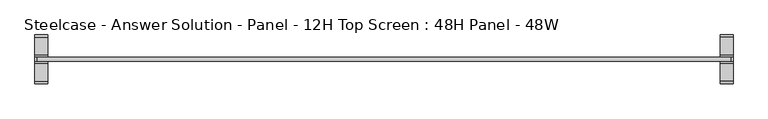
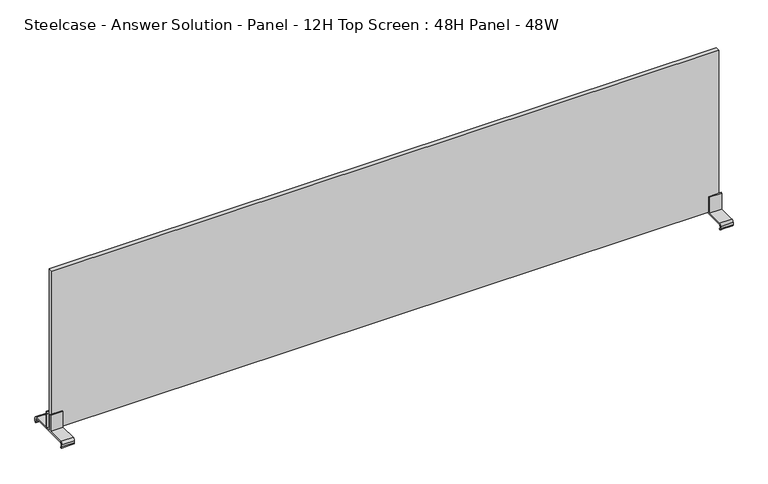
"""IFC4 building model written with IfcOpenShell, lengths in millimetres: furniture geometry, Steelcase - Answer Solution - Panel - 12H Top Screen : 48H Panel - 48W."""

from ifc_helpers import new_model, si_unit, point, frame, frame_2d, origin, place, context, project, spatial, polyline, circle_curve, trimmed, segment, composite_curve, outline, extrude, source, transform, mapped, element, save


def steelcase_answer_solution_panel_12h_top_screen_48h_panel_48w_fa9594a9(model_context):
    return source(origin(), model_context, "Body", "SweptSolid", [
        extrude(outline(polyline([(605.536, -3.683001), (-605.536, -3.683001), (-605.536, 3.683001), (605.536, 3.683001), (605.536, -3.683001)])), frame((0.0, 0.0, 1227.5819981), z_axis=(0.0, 0.0, 1.0), x_axis=(1.0, 0.0, 0.0)), (0.0, 0.0, 1.0), 304.8),
        extrude(outline(composite_curve([segment(trimmed(circle_curve(frame_2d((38.5445, 1223.645)), 1.905), [point((40.4495, 1223.645))], [point((38.5445, 1225.55))], True, "CARTESIAN"), True, "CONTINUOUS"), segment(polyline([(38.5445, 1225.55), (-38.5445, 1225.55)]), True, "CONTINUOUS"), segment(trimmed(circle_curve(frame_2d((-38.5445, 1223.645)), 1.905), [point((-38.5445, 1225.55))], [point((-40.4495, 1223.645))], True, "CARTESIAN"), True, "CONTINUOUS"), segment(polyline([(-40.4495, 1223.645), (-40.4495, 1219.0341187)]), True, "CONTINUOUS"), segment(trimmed(circle_curve(frame_2d((-38.5445, 1219.0341187)), 1.905), [point((-40.4495, 1219.0341187))], [point((-38.6743328, 1217.1335481))], True, "CARTESIAN"), True, "CONTINUOUS"), segment(polyline([(-38.6743328, 1217.1335481), (-39.2392449, 1215.5535566)]), True, "CONTINUOUS"), segment(trimmed(circle_curve(frame_2d((-38.5459934, 1219.4284569)), 3.9364261), [point((-39.2392449, 1215.5535566))], [point((-42.4824195, 1219.4284569))], False, "CARTESIAN"), True, "CONTINUOUS"), segment(polyline([(-42.4824195, 1219.4284569), (-42.4824195, 1223.6452288)]), True, "CONTINUOUS"), segment(trimmed(circle_curve(frame_2d((-38.5459934, 1223.6452288)), 3.9364261), [point((-42.4824195, 1223.6452288))], [point((-38.5459934, 1227.5816549))], False, "CARTESIAN"), True, "CONTINUOUS"), segment(polyline([(-38.5459934, 1227.5816549), (-6.7310004, 1227.5816549), (-6.7310004, 1258.5699952), (-4.699, 1258.5699952), (-4.699, 1227.5819952), (4.699, 1227.5819952), (4.699, 1258.5700048), (6.7310004, 1258.5700048), (6.7310004, 1227.5816549), (38.5459934, 1227.5816549)]), True, "CONTINUOUS"), segment(trimmed(circle_curve(frame_2d((38.5459934, 1223.6452288)), 3.9364261), [point((38.5459934, 1227.5816549))], [point((42.4824195, 1223.6452288))], False, "CARTESIAN"), True, "CONTINUOUS"), segment(polyline([(42.4824195, 1223.6452288), (42.4824195, 1219.4284569)]), True, "CONTINUOUS"), segment(trimmed(circle_curve(frame_2d((38.5459934, 1219.4284569)), 3.9364261), [point((42.4824195, 1219.4284569))], [point((39.6631716, 1215.6538889))], False, "CARTESIAN"), True, "CONTINUOUS"), segment(polyline([(39.6631716, 1215.6538889), (39.1055128, 1217.2135996)]), True, "CONTINUOUS"), segment(trimmed(circle_curve(frame_2d((38.5445, 1219.0341187)), 1.905), [point((39.1055128, 1217.2135996))], [point((40.4495, 1219.0341187))], True, "CARTESIAN"), True, "CONTINUOUS"), segment(polyline([(40.4495, 1219.0341187), (40.4495, 1223.645)]), True, "CONTINUOUS")], self_intersect=False)), frame((586.994, 0.0, 0.0), z_axis=(1.0, 0.0, 0.0), x_axis=(0.0, 1.0, 0.0)), (0.0, 0.0, 1.0), 22.606),
        extrude(outline(composite_curve([segment(trimmed(circle_curve(frame_2d((38.5445, 1223.645)), 1.905), [point((40.4495, 1223.645))], [point((38.5445, 1225.55))], True, "CARTESIAN"), True, "CONTINUOUS"), segment(polyline([(38.5445, 1225.55), (-38.5445, 1225.55)]), True, "CONTINUOUS"), segment(trimmed(circle_curve(frame_2d((-38.5445, 1223.645)), 1.905), [point((-38.5445, 1225.55))], [point((-40.4495, 1223.645))], True, "CARTESIAN"), True, "CONTINUOUS"), segment(polyline([(-40.4495, 1223.645), (-40.4495, 1219.0341187)]), True, "CONTINUOUS"), segment(trimmed(circle_curve(frame_2d((-38.5445, 1219.0341187)), 1.905), [point((-40.4495, 1219.0341187))], [point((-38.6743328, 1217.1335481))], True, "CARTESIAN"), True, "CONTINUOUS"), segment(polyline([(-38.6743328, 1217.1335481), (-39.2392449, 1215.5535566)]), True, "CONTINUOUS"), segment(trimmed(circle_curve(frame_2d((-38.5459934, 1219.4284569)), 3.9364261), [point((-39.2392449, 1215.5535566))], [point((-42.4824195, 1219.4284569))], False, "CARTESIAN"), True, "CONTINUOUS"), segment(polyline([(-42.4824195, 1219.4284569), (-42.4824195, 1223.6452288)]), True, "CONTINUOUS"), segment(trimmed(circle_curve(frame_2d((-38.5459934, 1223.6452288)), 3.9364261), [point((-42.4824195, 1223.6452288))], [point((-38.5459934, 1227.5816549))], False, "CARTESIAN"), True, "CONTINUOUS"), segment(polyline([(-38.5459934, 1227.5816549), (-6.7310004, 1227.5816549), (-6.7310004, 1258.5699952), (-4.699, 1258.5699952), (-4.699, 1227.5819952), (4.699, 1227.5819952), (4.699, 1258.5700048), (6.7310004, 1258.5700048), (6.7310004, 1227.5816549), (38.5459934, 1227.5816549)]), True, "CONTINUOUS"), segment(trimmed(circle_curve(frame_2d((38.5459934, 1223.6452288)), 3.9364261), [point((38.5459934, 1227.5816549))], [point((42.4824195, 1223.6452288))], False, "CARTESIAN"), True, "CONTINUOUS"), segment(polyline([(42.4824195, 1223.6452288), (42.4824195, 1219.4284569)]), True, "CONTINUOUS"), segment(trimmed(circle_curve(frame_2d((38.5459934, 1219.4284569)), 3.9364261), [point((42.4824195, 1219.4284569))], [point((39.6631716, 1215.6538889))], False, "CARTESIAN"), True, "CONTINUOUS"), segment(polyline([(39.6631716, 1215.6538889), (39.1055128, 1217.2135996)]), True, "CONTINUOUS"), segment(trimmed(circle_curve(frame_2d((38.5445, 1219.0341187)), 1.905), [point((39.1055128, 1217.2135996))], [point((40.4495, 1219.0341187))], True, "CARTESIAN"), True, "CONTINUOUS"), segment(polyline([(40.4495, 1219.0341187), (40.4495, 1223.645)]), True, "CONTINUOUS")], self_intersect=False)), frame((-609.6, 0.0, 0.0), z_axis=(1.0, 0.0, 0.0), x_axis=(0.0, 1.0, 0.0)), (0.0, 0.0, 1.0), 22.606),
    ])


if __name__ == "__main__":
    model = new_model("IFC4")
    model_context = context("Model", 3, world=origin())
    ifc_project = project(units=[si_unit("LENGTHUNIT", "METRE", prefix="MILLI")], contexts=[model_context])
    site = spatial("IfcSite", under=ifc_project)
    building = spatial("IfcBuilding", under=site)
    placement = place(None, origin())
    steelcase_answer_solution_panel_12h_top_screen_48h_panel_48w_shape = steelcase_answer_solution_panel_12h_top_screen_48h_panel_48w_fa9594a9(model_context)
    element("IfcFurniture", 1, ObjectType="Steelcase - Answer Solution - Panel - 12H Top Screen : 48H Panel - 48W", at=placement, inside=building, context=model_context, shape_type="MappedRepresentation", body=[
        mapped(steelcase_answer_solution_panel_12h_top_screen_48h_panel_48w_shape, transform((0.0, 0.0, 0.0), x_axis=(1.0, 0.0, 0.0), y_axis=(0.0, 1.0, 0.0), z_axis=(0.0, 0.0, 1.0))),
    ])
    save(model, "model.ifc")
